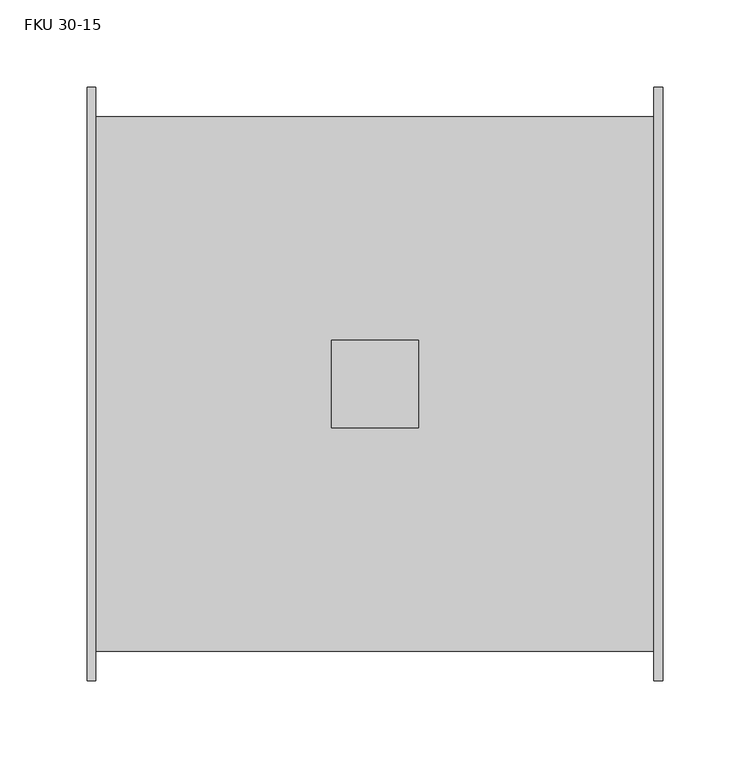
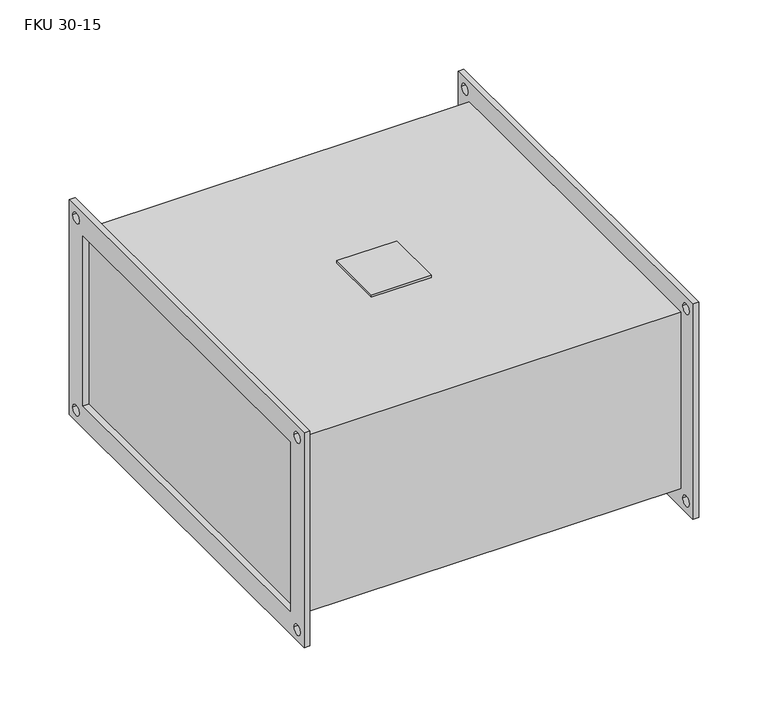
"""IFC4 building model written with IfcOpenShell, lengths in millimetres: damper geometry, KORF_Фильтр_Карманный_Укороченный_FKU : FKU 30-15."""

from ifc_helpers import new_model, si_unit, point, frame, frame_2d, origin, place, context, project, spatial, polyline, circle_curve, trimmed, segment, composite_curve, outline, extrude, source, transform, mapped, element, save


def fku_30_15_48607b87(model_context):
    return source(origin(), model_context, "Body", "SweptSolid", [
        extrude(outline(polyline([(140.0, -25.0), (140.0, 25.0), (190.0, 25.0), (190.0, -25.0), (140.0, -25.0)])), frame((0.0, 0.0, 78.0), z_axis=(0.0, 0.0, 1.0), x_axis=(1.0, 0.0, 0.0)), (0.0, 0.0, 1.0), 2.0),
        extrude(outline(polyline([(-170.0, 95.0), (170.0, 95.0), (170.0, -95.0), (-170.0, -95.0), (-170.0, 95.0)]), holes=[polyline([(-150.0, 75.0), (-150.0, -75.0), (150.0, -75.0), (150.0, 75.0), (-150.0, 75.0)]), composite_curve([segment(trimmed(circle_curve(frame_2d((160.0, 85.0)), 4.5), [point((155.5, 85.0))], [point((164.5, 85.0))], True, "CARTESIAN"), True, "CONTINUOUS"), segment(trimmed(circle_curve(frame_2d((160.0, 85.0)), 4.5), [point((164.5, 85.0))], [point((155.5, 85.0))], True, "CARTESIAN"), True, "CONTINUOUS")], self_intersect=False), composite_curve([segment(trimmed(circle_curve(frame_2d((-160.0, 85.0)), 4.5), [point((-164.5, 85.0))], [point((-155.5, 85.0))], True, "CARTESIAN"), True, "CONTINUOUS"), segment(trimmed(circle_curve(frame_2d((-160.0, 85.0)), 4.5), [point((-155.5, 85.0))], [point((-164.5, 85.0))], True, "CARTESIAN"), True, "CONTINUOUS")], self_intersect=False), composite_curve([segment(trimmed(circle_curve(frame_2d((-160.0, -85.0)), 4.5), [point((-164.5, -85.0))], [point((-155.5, -85.0))], True, "CARTESIAN"), True, "CONTINUOUS"), segment(trimmed(circle_curve(frame_2d((-160.0, -85.0)), 4.5), [point((-155.5, -85.0))], [point((-164.5, -85.0))], True, "CARTESIAN"), True, "CONTINUOUS")], self_intersect=False), composite_curve([segment(trimmed(circle_curve(frame_2d((160.0, -85.0)), 4.5), [point((155.5, -85.0))], [point((164.5, -85.0))], True, "CARTESIAN"), True, "CONTINUOUS"), segment(trimmed(circle_curve(frame_2d((160.0, -85.0)), 4.5), [point((164.5, -85.0))], [point((155.5, -85.0))], True, "CARTESIAN"), True, "CONTINUOUS")], self_intersect=False)]), frame((325.0, 0.0, 0.0), z_axis=(1.0, 0.0, 0.0), x_axis=(0.0, 1.0, 0.0)), (0.0, 0.0, 1.0), 5.0),
        extrude(outline(polyline([(-170.0, 95.0), (170.0, 95.0), (170.0, -95.0), (-170.0, -95.0), (-170.0, 95.0)]), holes=[polyline([(-150.0, 75.0), (-150.0, -75.0), (150.0, -75.0), (150.0, 75.0), (-150.0, 75.0)]), composite_curve([segment(trimmed(circle_curve(frame_2d((160.0, 85.0)), 4.5), [point((155.5, 85.0))], [point((164.5, 85.0))], True, "CARTESIAN"), True, "CONTINUOUS"), segment(trimmed(circle_curve(frame_2d((160.0, 85.0)), 4.5), [point((164.5, 85.0))], [point((155.5, 85.0))], True, "CARTESIAN"), True, "CONTINUOUS")], self_intersect=False), composite_curve([segment(trimmed(circle_curve(frame_2d((-160.0, 85.0)), 4.5), [point((-164.5, 85.0))], [point((-155.5, 85.0))], True, "CARTESIAN"), True, "CONTINUOUS"), segment(trimmed(circle_curve(frame_2d((-160.0, 85.0)), 4.5), [point((-155.5, 85.0))], [point((-164.5, 85.0))], True, "CARTESIAN"), True, "CONTINUOUS")], self_intersect=False), composite_curve([segment(trimmed(circle_curve(frame_2d((-160.0, -85.0)), 4.5), [point((-164.5, -85.0))], [point((-155.5, -85.0))], True, "CARTESIAN"), True, "CONTINUOUS"), segment(trimmed(circle_curve(frame_2d((-160.0, -85.0)), 4.5), [point((-155.5, -85.0))], [point((-164.5, -85.0))], True, "CARTESIAN"), True, "CONTINUOUS")], self_intersect=False), composite_curve([segment(trimmed(circle_curve(frame_2d((160.0, -85.0)), 4.5), [point((155.5, -85.0))], [point((164.5, -85.0))], True, "CARTESIAN"), True, "CONTINUOUS"), segment(trimmed(circle_curve(frame_2d((160.0, -85.0)), 4.5), [point((164.5, -85.0))], [point((155.5, -85.0))], True, "CARTESIAN"), True, "CONTINUOUS")], self_intersect=False)]), frame((0.0, 0.0, 0.0), z_axis=(1.0, 0.0, 0.0), x_axis=(0.0, 1.0, 0.0)), (0.0, 0.0, 1.0), 5.0),
        extrude(outline(polyline([(325.0, 153.0), (325.0, -153.0), (5.0, -153.0), (5.0, 153.0), (325.0, 153.0)])), frame((0.0, 0.0, -78.0), z_axis=(0.0, 0.0, 1.0), x_axis=(1.0, 0.0, 0.0)), (0.0, 0.0, 1.0), 156.0),
    ])


if __name__ == "__main__":
    model = new_model("IFC4")
    model_context = context("Model", 3, world=origin())
    ifc_project = project(units=[si_unit("LENGTHUNIT", "METRE", prefix="MILLI")], contexts=[model_context])
    site = spatial("IfcSite", under=ifc_project)
    building = spatial("IfcBuilding", under=site)
    placement = place(None, origin())
    fku_30_15_shape = fku_30_15_48607b87(model_context)
    element("IfcDamper", 1, ObjectType="KORF_Фильтр_Карманный_Укороченный_FKU : FKU 30-15", at=placement, inside=building, context=model_context, shape_type="MappedRepresentation", body=[
        mapped(fku_30_15_shape, transform((0.0, 0.0, 0.0), x_axis=(1.0, 0.0, 0.0), y_axis=(0.0, 1.0, 0.0), z_axis=(0.0, 0.0, 1.0))),
    ])
    save(model, "model.ifc")
